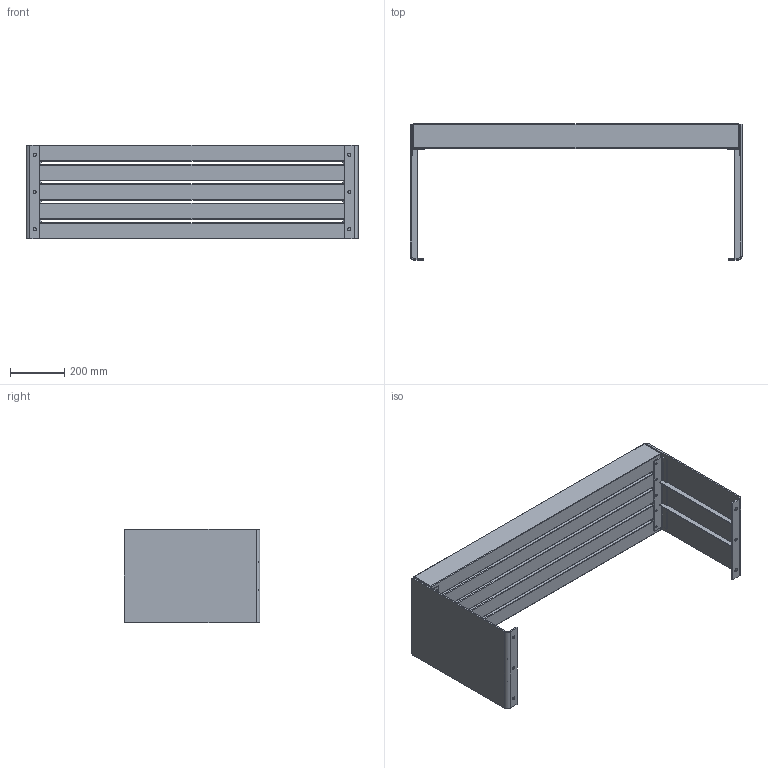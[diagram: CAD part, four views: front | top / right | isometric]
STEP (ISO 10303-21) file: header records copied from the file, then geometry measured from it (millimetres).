
FILE_DESCRIPTION (( 'STEP AP203' ), '1' );
FILE_NAME ('BENCH 1.STEP', '2026-02-23T08:02:20', ( '' ), ( '' ), 'SwSTEP 2.0', 'SolidWorks 2025', '' );
FILE_SCHEMA (( 'CONFIG_CONTROL_DESIGN' ));
Length unit declared in the file: millimetre
Products named in the file (5): Part5^BENCH 1; Part1^BENCH 1; Part3^BENCH 1; Part2^BENCH 1; BENCH 1
Assembly tree (13 placements, depth 2):
  BENCH 1
    Part1^BENCH 1  x5
    Part2^BENCH 1  x2
    Part3^BENCH 1  x2
    Part5^BENCH 1  x4
Bounding box: 1222 x 500 x 345 mm (x, y, z)
Volume: 34825931.8 mm3; surface area: 2759871.8 mm2
Topology: 13 solids, 13 shells, 334 faces, 748 edges, 400 vertices
Faces by surface type: plane 174, cylinder 120, sphere 40
Entity records: 4059 total; most frequent: DIRECTION 620, CARTESIAN_POINT 552, ORIENTED_EDGE 528, EDGE_CURVE 264, AXIS2_PLACEMENT_3D 220, LINE 180, VECTOR 180, VERTEX_POINT 152
